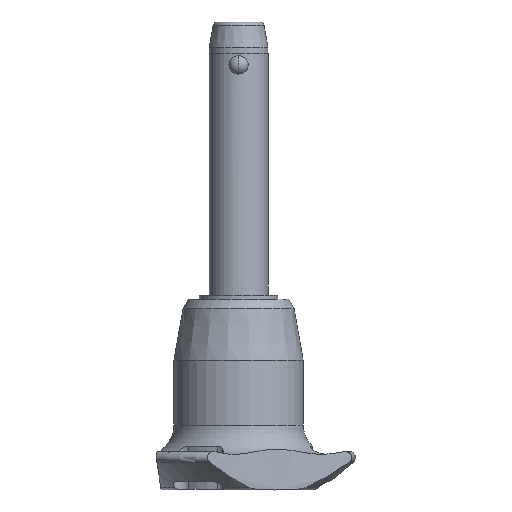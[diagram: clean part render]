
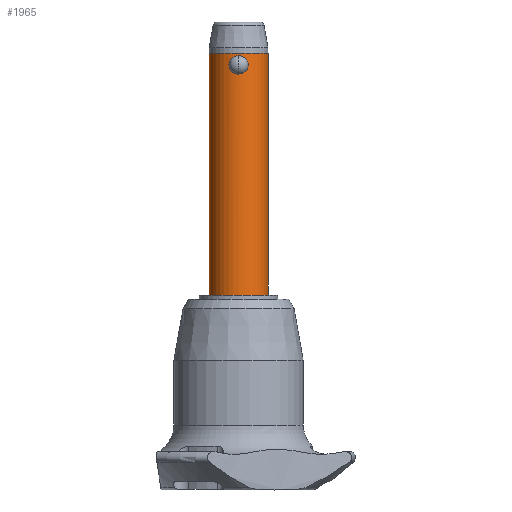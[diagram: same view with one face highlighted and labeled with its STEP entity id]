
A CAD part, front view. The second image highlights one B-rep face of the part: STEP entity #1965.
In plain terms, the highlighted cylindrical face has radius 6 mm (diameter 12 mm), a partial arc.
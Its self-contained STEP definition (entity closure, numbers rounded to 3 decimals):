
#19 = CARTESIAN_POINT ( 'NONE',  ( -1.955, -5.673, 1.731 ) ) ;
#25 = CARTESIAN_POINT ( 'NONE',  ( -6., 0., -45. ) ) ;
#47 = CARTESIAN_POINT ( 'NONE',  ( -0.252, -5.996, 3.697 ) ) ;
#102 = CARTESIAN_POINT ( 'NONE',  ( 0.62, -5.969, 3.619 ) ) ;
#123 = CIRCLE ( 'NONE', #2165, 6. ) ;
#164 = VERTEX_POINT ( 'NONE', #496 ) ;
#186 = CARTESIAN_POINT ( 'NONE',  ( 1.178, -5.884, 0.362 ) ) ;
#216 = ORIENTED_EDGE ( 'NONE', *, *, #395, .F. ) ;
#229 = CARTESIAN_POINT ( 'NONE',  ( -0.966, -5.923, 3.476 ) ) ;
#236 = EDGE_LOOP ( 'NONE', ( #1495, #869 ) ) ;
#245 = CARTESIAN_POINT ( 'NONE',  ( -0.62, -5.969, 3.619 ) ) ;
#256 = CARTESIAN_POINT ( 'NONE',  ( -1.177, -5.884, 3.347 ) ) ;
#298 = EDGE_CURVE ( 'NONE', #1671, #164, #788, .T. ) ;
#313 = CARTESIAN_POINT ( 'NONE',  ( 0.855, -5.94, 3.53 ) ) ;
#324 = CARTESIAN_POINT ( 'NONE',  ( 0., 0., -45. ) ) ;
#336 = ORIENTED_EDGE ( 'NONE', *, *, #1146, .T. ) ;
#366 = DIRECTION ( 'NONE',  ( 0., 0., 1. ) ) ;
#395 = EDGE_CURVE ( 'NONE', #627, #1020, #123, .T. ) ;
#438 = DIRECTION ( 'NONE',  ( 0., 0., 1. ) ) ;
#442 = CARTESIAN_POINT ( 'NONE',  ( -1.687, -5.759, 2.809 ) ) ;
#445 = CARTESIAN_POINT ( 'NONE',  ( 0., -6., 3.708 ) ) ;
#469 = CARTESIAN_POINT ( 'NONE',  ( -1.955, -5.673, 2.107 ) ) ;
#496 = CARTESIAN_POINT ( 'NONE',  ( 6., 0., 4.24 ) ) ;
#565 = CARTESIAN_POINT ( 'NONE',  ( 1.551, -5.799, 3.018 ) ) ;
#580 = CARTESIAN_POINT ( 'NONE',  ( 1.178, -5.884, 3.346 ) ) ;
#602 = FACE_OUTER_BOUND ( 'NONE', #2238, .T. ) ;
#627 = VERTEX_POINT ( 'NONE', #2898 ) ;
#653 = DIRECTION ( 'NONE',  ( 1., 0., 0. ) ) ;
#731 = CARTESIAN_POINT ( 'NONE',  ( -0.854, -5.94, 3.53 ) ) ;
#733 = CARTESIAN_POINT ( 'NONE',  ( 0., -6., 0. ) ) ;
#760 = CARTESIAN_POINT ( 'NONE',  ( 1.749, -5.74, 1.007 ) ) ;
#788 = CIRCLE ( 'NONE', #1685, 6. ) ;
#850 = CARTESIAN_POINT ( 'NONE',  ( 0., -6., 0. ) ) ;
#869 = ORIENTED_EDGE ( 'NONE', *, *, #2402, .F. ) ;
#911 = CARTESIAN_POINT ( 'NONE',  ( -1.9, -5.692, 2.359 ) ) ;
#939 = CARTESIAN_POINT ( 'NONE',  ( -1.551, -5.799, 0.69 ) ) ;
#955 = CARTESIAN_POINT ( 'NONE',  ( -1.852, -5.707, 1.239 ) ) ;
#984 = LINE ( 'NONE', #1674, #2548 ) ;
#1020 = VERTEX_POINT ( 'NONE', #1180 ) ;
#1025 = CARTESIAN_POINT ( 'NONE',  ( 1.543, -5.799, 0.699 ) ) ;
#1060 = VERTEX_POINT ( 'NONE', #733 ) ;
#1092 = CARTESIAN_POINT ( 'NONE',  ( 0.503, -5.983, 0.045 ) ) ;
#1115 = ORIENTED_EDGE ( 'NONE', *, *, #298, .F. ) ;
#1136 = CARTESIAN_POINT ( 'NONE',  ( -1.942, -5.677, 1.604 ) ) ;
#1138 = AXIS2_PLACEMENT_3D ( 'NONE', #1979, #366, #653 ) ;
#1146 = EDGE_CURVE ( 'NONE', #627, #164, #984, .T. ) ;
#1154 = CARTESIAN_POINT ( 'NONE',  ( -1.278, -5.863, 3.271 ) ) ;
#1177 = CARTESIAN_POINT ( 'NONE',  ( 0., -6., 3.708 ) ) ;
#1180 = CARTESIAN_POINT ( 'NONE',  ( -6., 0., -45. ) ) ;
#1216 = ORIENTED_EDGE ( 'NONE', *, *, #2068, .F. ) ;
#1277 = CARTESIAN_POINT ( 'NONE',  ( 1.901, -5.692, 1.35 ) ) ;
#1301 = B_SPLINE_CURVE_WITH_KNOTS ( 'NONE', 3,
 ( #850, #1755, #1092, #2659, #2440, #186, #1310, #2216, #1025, #2567, #760, #1277, #2405, #2789, #2579, #2121, #2381, #1879, #565, #1715, #580, #1934, #313, #102, #1479, #2852, #2597, #1917 ),
 .UNSPECIFIED., .F., .F.,
 ( 4, 2, 2, 2, 2, 2, 2, 2, 2, 2, 2, 2, 2, 4 ),
 ( 0.006, 0.007, 0.007, 0.008, 0.008, 0.008, 0.009, 0.009, 0.01, 0.011, 0.011, 0.011, 0.012, 0.012 ),
 .UNSPECIFIED. ) ;
#1310 = CARTESIAN_POINT ( 'NONE',  ( 1.277, -5.863, 0.437 ) ) ;
#1341 = DIRECTION ( 'NONE',  ( 1., 0., 0. ) ) ;
#1355 = EDGE_CURVE ( 'NONE', #2649, #1060, #2013, .T. ) ;
#1372 = CARTESIAN_POINT ( 'NONE',  ( -0.967, -5.923, 0.233 ) ) ;
#1396 = CARTESIAN_POINT ( 'NONE',  ( -1.75, -5.74, 2.7 ) ) ;
#1431 = DIRECTION ( 'NONE',  ( 0., 0., -1. ) ) ;
#1479 = CARTESIAN_POINT ( 'NONE',  ( 0.498, -5.981, 3.652 ) ) ;
#1488 = FACE_BOUND ( 'NONE', #236, .T. ) ;
#1495 = ORIENTED_EDGE ( 'NONE', *, *, #1355, .F. ) ;
#1557 = VECTOR ( 'NONE', #2302, 1000. ) ;
#1587 = CARTESIAN_POINT ( 'NONE',  ( -1.541, -5.799, 3.011 ) ) ;
#1602 = CARTESIAN_POINT ( 'NONE',  ( -0.25, -6., 0. ) ) ;
#1671 = VERTEX_POINT ( 'NONE', #2219 ) ;
#1674 = CARTESIAN_POINT ( 'NONE',  ( 6., 0., -45. ) ) ;
#1685 = AXIS2_PLACEMENT_3D ( 'NONE', #2471, #438, #1341 ) ;
#1715 = CARTESIAN_POINT ( 'NONE',  ( 1.279, -5.863, 3.27 ) ) ;
#1755 = CARTESIAN_POINT ( 'NONE',  ( 0.25, -6., 0. ) ) ;
#1825 = CARTESIAN_POINT ( 'NONE',  ( -1.89, -5.695, 1.358 ) ) ;
#1859 = DIRECTION ( 'NONE',  ( 1., 0., 0. ) ) ;
#1879 = CARTESIAN_POINT ( 'NONE',  ( 1.7, -5.755, 2.812 ) ) ;
#1917 = CARTESIAN_POINT ( 'NONE',  ( 0., -6., 3.708 ) ) ;
#1934 = CARTESIAN_POINT ( 'NONE',  ( 0.966, -5.923, 3.476 ) ) ;
#1965 = ADVANCED_FACE ( 'NONE', ( #602, #1488 ), #1996, .T. ) ;
#1979 = CARTESIAN_POINT ( 'NONE',  ( 0., 0., -45. ) ) ;
#1996 = CYLINDRICAL_SURFACE ( 'NONE', #1138, 6. ) ;
#2013 = B_SPLINE_CURVE_WITH_KNOTS ( 'NONE', 3,
 ( #1177, #2052, #47, #2297, #245, #731, #229, #256, #1154, #2486, #1587, #442, #1396, #911, #469, #19, #1136, #1825, #955, #2041, #939, #2731, #2499, #1372, #2082, #2308, #1602, #2745 ),
 .UNSPECIFIED., .F., .F.,
 ( 4, 2, 2, 2, 2, 2, 2, 2, 2, 2, 2, 2, 2, 4 ),
 ( 0., 0., 0.001, 0.001, 0.002, 0.002, 0.002, 0.003, 0.003, 0.004, 0.005, 0.005, 0.005, 0.006 ),
 .UNSPECIFIED. ) ;
#2041 = CARTESIAN_POINT ( 'NONE',  ( -1.7, -5.755, 0.895 ) ) ;
#2052 = CARTESIAN_POINT ( 'NONE',  ( -0.127, -6., 3.708 ) ) ;
#2068 = EDGE_CURVE ( 'NONE', #1020, #1671, #2700, .T. ) ;
#2082 = CARTESIAN_POINT ( 'NONE',  ( -0.853, -5.94, 0.177 ) ) ;
#2121 = CARTESIAN_POINT ( 'NONE',  ( 1.89, -5.695, 2.349 ) ) ;
#2165 = AXIS2_PLACEMENT_3D ( 'NONE', #324, #1431, #1859 ) ;
#2216 = CARTESIAN_POINT ( 'NONE',  ( 1.459, -5.821, 0.604 ) ) ;
#2219 = CARTESIAN_POINT ( 'NONE',  ( -6., 0., 4.24 ) ) ;
#2238 = EDGE_LOOP ( 'NONE', ( #1216, #216, #336, #1115 ) ) ;
#2297 = CARTESIAN_POINT ( 'NONE',  ( -0.498, -5.981, 3.652 ) ) ;
#2302 = DIRECTION ( 'NONE',  ( 0., 0., 1. ) ) ;
#2308 = CARTESIAN_POINT ( 'NONE',  ( -0.504, -5.983, 0.045 ) ) ;
#2381 = CARTESIAN_POINT ( 'NONE',  ( 1.851, -5.708, 2.47 ) ) ;
#2383 = DIRECTION ( 'NONE',  ( 0., 0., 1. ) ) ;
#2402 = EDGE_CURVE ( 'NONE', #1060, #2649, #1301, .T. ) ;
#2405 = CARTESIAN_POINT ( 'NONE',  ( 1.955, -5.673, 1.6 ) ) ;
#2440 = CARTESIAN_POINT ( 'NONE',  ( 0.966, -5.923, 0.232 ) ) ;
#2471 = CARTESIAN_POINT ( 'NONE',  ( 0., 0., 4.24 ) ) ;
#2486 = CARTESIAN_POINT ( 'NONE',  ( -1.46, -5.821, 3.103 ) ) ;
#2499 = CARTESIAN_POINT ( 'NONE',  ( -1.179, -5.884, 0.363 ) ) ;
#2548 = VECTOR ( 'NONE', #2383, 1000. ) ;
#2567 = CARTESIAN_POINT ( 'NONE',  ( 1.687, -5.758, 0.899 ) ) ;
#2579 = CARTESIAN_POINT ( 'NONE',  ( 1.942, -5.677, 2.103 ) ) ;
#2597 = CARTESIAN_POINT ( 'NONE',  ( 0.127, -6., 3.708 ) ) ;
#2649 = VERTEX_POINT ( 'NONE', #445 ) ;
#2659 = CARTESIAN_POINT ( 'NONE',  ( 0.853, -5.94, 0.177 ) ) ;
#2700 = LINE ( 'NONE', #25, #1557 ) ;
#2731 = CARTESIAN_POINT ( 'NONE',  ( -1.278, -5.863, 0.437 ) ) ;
#2745 = CARTESIAN_POINT ( 'NONE',  ( 0., -6., 0. ) ) ;
#2789 = CARTESIAN_POINT ( 'NONE',  ( 1.955, -5.673, 1.979 ) ) ;
#2852 = CARTESIAN_POINT ( 'NONE',  ( 0.252, -5.996, 3.697 ) ) ;
#2898 = CARTESIAN_POINT ( 'NONE',  ( 6., 0., -45. ) ) ;
